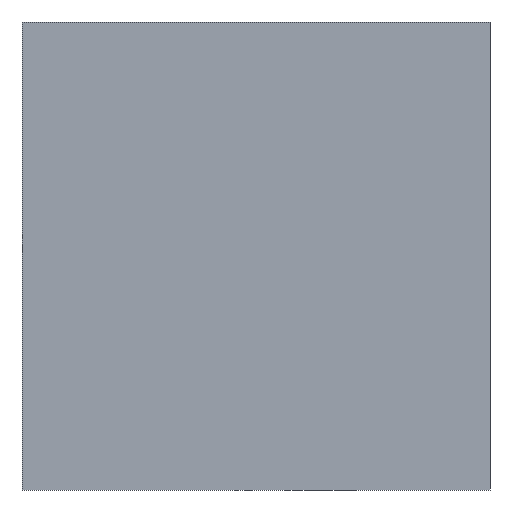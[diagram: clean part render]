
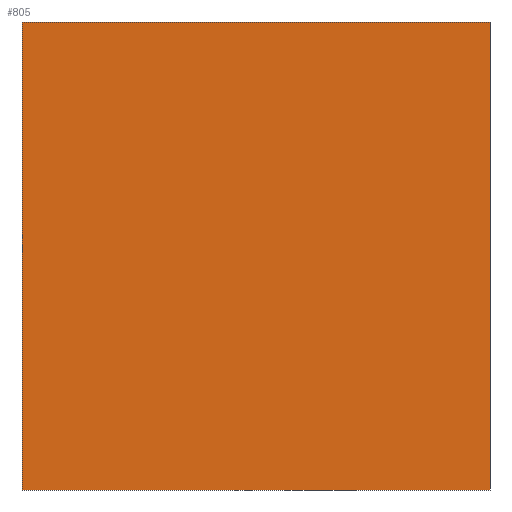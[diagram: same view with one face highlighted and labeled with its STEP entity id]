
A CAD part, front view. The second image highlights one B-rep face of the part: STEP entity #805.
In plain terms, the highlighted planar face has unit normal (0, -1, 0).
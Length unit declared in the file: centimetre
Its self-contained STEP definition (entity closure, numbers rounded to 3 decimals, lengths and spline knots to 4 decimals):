
#54 = AXIS2_PLACEMENT_3D ( 'NONE', #159, #437, #704 ) ;
#60 = EDGE_CURVE ( 'NONE', #688, #132, #512, .T. ) ;
#82 = CARTESIAN_POINT ( 'NONE',  ( 0., 0., 1000. ) ) ;
#99 = PLANE ( 'NONE',  #54 ) ;
#132 = VERTEX_POINT ( 'NONE', #519 ) ;
#148 = DIRECTION ( 'NONE',  ( 1., 0., 0. ) ) ;
#159 = CARTESIAN_POINT ( 'NONE',  ( 0., 0., 1000. ) ) ;
#198 = ORIENTED_EDGE ( 'NONE', *, *, #795, .T. ) ;
#199 = LINE ( 'NONE', #82, #655 ) ;
#337 = CARTESIAN_POINT ( 'NONE',  ( 1000., 0., 1000. ) ) ;
#363 = ORIENTED_EDGE ( 'NONE', *, *, #397, .F. ) ;
#397 = EDGE_CURVE ( 'NONE', #419, #132, #660, .T. ) ;
#401 = DIRECTION ( 'NONE',  ( 0., 0., -1. ) ) ;
#417 = CARTESIAN_POINT ( 'NONE',  ( 0., 0., 1000. ) ) ;
#419 = VERTEX_POINT ( 'NONE', #337 ) ;
#437 = DIRECTION ( 'NONE',  ( 0., 1., 0. ) ) ;
#470 = ORIENTED_EDGE ( 'NONE', *, *, #60, .T. ) ;
#502 = LINE ( 'NONE', #773, #800 ) ;
#512 = LINE ( 'NONE', #783, #872 ) ;
#519 = CARTESIAN_POINT ( 'NONE',  ( 1000., 0., 0. ) ) ;
#560 = EDGE_CURVE ( 'NONE', #644, #419, #199, .T. ) ;
#562 = EDGE_LOOP ( 'NONE', ( #470, #363, #756, #198 ) ) ;
#644 = VERTEX_POINT ( 'NONE', #417 ) ;
#655 = VECTOR ( 'NONE', #148, 100. ) ;
#660 = LINE ( 'NONE', #806, #791 ) ;
#688 = VERTEX_POINT ( 'NONE', #715 ) ;
#699 = DIRECTION ( 'NONE',  ( 1., 0., 0. ) ) ;
#704 = DIRECTION ( 'NONE',  ( 0., 0., 1. ) ) ;
#713 = FACE_OUTER_BOUND ( 'NONE', #562, .T. ) ;
#715 = CARTESIAN_POINT ( 'NONE',  ( 0., 0., 0. ) ) ;
#756 = ORIENTED_EDGE ( 'NONE', *, *, #560, .F. ) ;
#767 = DIRECTION ( 'NONE',  ( 0., 0., -1. ) ) ;
#773 = CARTESIAN_POINT ( 'NONE',  ( 0., 0., 1000. ) ) ;
#783 = CARTESIAN_POINT ( 'NONE',  ( 0., 0., 0. ) ) ;
#791 = VECTOR ( 'NONE', #401, 100. ) ;
#795 = EDGE_CURVE ( 'NONE', #644, #688, #502, .T. ) ;
#800 = VECTOR ( 'NONE', #767, 100. ) ;
#805 = ADVANCED_FACE ( 'NONE', ( #713 ), #99, .F. ) ;
#806 = CARTESIAN_POINT ( 'NONE',  ( 1000., 0., 1000. ) ) ;
#872 = VECTOR ( 'NONE', #699, 100. ) ;
